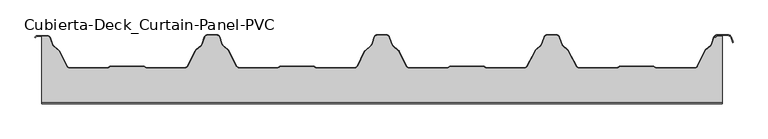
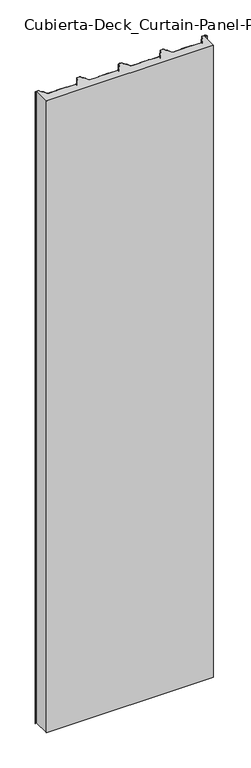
"""IFC4 building model written with IfcOpenShell, lengths in millimetres: plate geometry, Cubierta-Deck_Curtain-Panel-PVC : ACH_Cubierta-Deck_MW_50 mm."""

from ifc_helpers import new_model, si_unit, point, frame_2d, origin, origin_with_axes, place, context, project, spatial, polyline, circle_curve, trimmed, segment, composite_curve, outline, extrude, source, transform, mapped, element, save


def cubierta_deck_curtain_panel_pvc_440a0394(model_context):
    return source(origin(), model_context, "Body", "SweptSolid", [
        extrude(outline(composite_curve([segment(polyline([(-349.0135941, -47.2718753), (-348.3934384, -47.892031)]), True, "CONTINUOUS"), segment(trimmed(circle_curve(frame_2d((-346.2014073, -45.7)), 3.1), [point((-348.3934384, -47.892031))], [point((-346.2014073, -48.8))], True, "CARTESIAN"), True, "CONTINUOUS"), segment(polyline([(-346.2014073, -48.8), (-289.4061861, -48.8)]), True, "CONTINUOUS"), segment(trimmed(circle_curve(frame_2d((-289.4061861, -44.5)), 4.3), [point((-289.4061861, -48.8))], [point((-285.5884085, -46.4785284))], True, "CARTESIAN"), True, "CONTINUOUS"), segment(polyline([(-285.5884085, -46.4785284), (-273.6825876, -23.505001)]), True, "CONTINUOUS"), segment(trimmed(circle_curve(frame_2d((-271.1078074, -24.8393573)), 2.9), [point((-273.6825876, -23.505001))], [point((-273.017236, -22.6566795))], False, "CARTESIAN"), True, "CONTINUOUS"), segment(polyline([(-273.017236, -22.6566795), (-265.2497907, -15.8616403)]), True, "CONTINUOUS"), segment(trimmed(circle_curve(frame_2d((-267.290904, -13.5284329)), 3.1), [point((-265.2497907, -15.8616403))], [point((-264.3739053, -14.5777749))], True, "CARTESIAN"), True, "CONTINUOUS"), segment(polyline([(-264.3739053, -14.5777749), (-260.2266586, -3.0491088)]), True, "CONTINUOUS"), segment(trimmed(circle_curve(frame_2d((-257.0273697, -4.2)), 3.4), [point((-260.2266586, -3.0491088))], [point((-257.0273697, -0.8))], False, "CARTESIAN"), True, "CONTINUOUS"), segment(polyline([(-257.0273697, -0.8), (-242.6920972, -0.8)]), True, "CONTINUOUS"), segment(trimmed(circle_curve(frame_2d((-242.6920972, -4.2)), 3.4), [point((-242.6920972, -0.8))], [point((-239.4928083, -3.0491088))], False, "CARTESIAN"), True, "CONTINUOUS"), segment(polyline([(-239.4928083, -3.0491088), (-235.3455616, -14.5777749)]), True, "CONTINUOUS"), segment(trimmed(circle_curve(frame_2d((-232.4285629, -13.5284329)), 3.1), [point((-235.3455616, -14.5777749))], [point((-234.4696761, -15.8616403))], True, "CARTESIAN"), True, "CONTINUOUS"), segment(polyline([(-234.4696761, -15.8616403), (-226.7022309, -22.6566795)]), True, "CONTINUOUS"), segment(trimmed(circle_curve(frame_2d((-228.6116595, -24.8393573)), 2.9), [point((-226.7022309, -22.6566795))], [point((-226.0368792, -23.505001))], False, "CARTESIAN"), True, "CONTINUOUS"), segment(polyline([(-226.0368792, -23.505001), (-214.1310583, -46.4785284)]), True, "CONTINUOUS"), segment(trimmed(circle_curve(frame_2d((-210.3132808, -44.5)), 4.3), [point((-214.1310583, -46.4785284))], [point((-210.3132808, -48.8))], True, "CARTESIAN"), True, "CONTINUOUS"), segment(polyline([(-210.3132808, -48.8), (-153.5333867, -48.8)]), True, "CONTINUOUS"), segment(trimmed(circle_curve(frame_2d((-153.5333867, -45.7)), 3.1), [point((-153.5333867, -48.8))], [point((-151.3413557, -47.892031))], True, "CARTESIAN"), True, "CONTINUOUS"), segment(polyline([(-151.3413557, -47.892031), (-150.7212, -47.2718753)]), True, "CONTINUOUS"), segment(trimmed(circle_curve(frame_2d((-149.0481053, -50.0020238)), 3.2020238), [point((-150.7212, -47.2718753))], [point((-149.0481053, -46.8))], False, "CARTESIAN"), True, "CONTINUOUS"), segment(polyline([(-149.0481053, -46.8), (-101.2020159, -46.8)]), True, "CONTINUOUS"), segment(trimmed(circle_curve(frame_2d((-101.2020159, -50.0020238)), 3.2020238), [point((-101.2020159, -46.8))], [point((-99.5289212, -47.2718753))], False, "CARTESIAN"), True, "CONTINUOUS"), segment(polyline([(-99.5289212, -47.2718753), (-98.9087655, -47.892031)]), True, "CONTINUOUS"), segment(trimmed(circle_curve(frame_2d((-96.7167345, -45.7)), 3.1), [point((-98.9087655, -47.892031))], [point((-96.7167345, -48.8))], True, "CARTESIAN"), True, "CONTINUOUS"), segment(polyline([(-96.7167345, -48.8), (-39.9215133, -48.8)]), True, "CONTINUOUS"), segment(trimmed(circle_curve(frame_2d((-39.9215133, -44.5)), 4.3), [point((-39.9215133, -48.8))], [point((-36.0707148, -46.4134657))], True, "CARTESIAN"), True, "CONTINUOUS"), segment(polyline([(-36.0707148, -46.4134657), (-25.2060392, -24.5485969)]), True, "CONTINUOUS"), segment(trimmed(circle_curve(frame_2d((-22.6089891, -25.8390738)), 2.9), [point((-25.2060392, -24.5485969))], [point((-24.5354625, -23.6714252))], False, "CARTESIAN"), True, "CONTINUOUS"), segment(polyline([(-24.5354625, -23.6714252), (-15.7323582, -15.8477646)]), True, "CONTINUOUS"), segment(trimmed(circle_curve(frame_2d((-17.7916919, -13.530623)), 3.1), [point((-15.7323582, -15.8477646))], [point((-14.8746932, -14.579965))], True, "CARTESIAN"), True, "CONTINUOUS"), segment(polyline([(-14.8746932, -14.579965), (-10.7266586, -3.0491088)]), True, "CONTINUOUS"), segment(trimmed(circle_curve(frame_2d((-7.5273697, -4.2)), 3.4), [point((-10.7266586, -3.0491088))], [point((-7.5273697, -0.8))], False, "CARTESIAN"), True, "CONTINUOUS"), segment(polyline([(-7.5273697, -0.8), (6.8079028, -0.8)]), True, "CONTINUOUS"), segment(trimmed(circle_curve(frame_2d((6.8079028, -4.2)), 3.4), [point((6.8079028, -0.8))], [point((10.0071917, -3.0491088))], False, "CARTESIAN"), True, "CONTINUOUS"), segment(polyline([(10.0071917, -3.0491088), (14.1552263, -14.579965)]), True, "CONTINUOUS"), segment(trimmed(circle_curve(frame_2d((17.072225, -13.530623)), 3.1), [point((14.1552263, -14.579965))], [point((15.0128913, -15.8477646))], True, "CARTESIAN"), True, "CONTINUOUS"), segment(polyline([(15.0128913, -15.8477646), (23.8159956, -23.6714252)]), True, "CONTINUOUS"), segment(trimmed(circle_curve(frame_2d((21.8895222, -25.8390738)), 2.9), [point((23.8159956, -23.6714252))], [point((24.4865724, -24.5485969))], False, "CARTESIAN"), True, "CONTINUOUS"), segment(polyline([(24.4865724, -24.5485969), (35.3512479, -46.4134657)]), True, "CONTINUOUS"), segment(trimmed(circle_curve(frame_2d((39.2020464, -44.5)), 4.3), [point((35.3512479, -46.4134657))], [point((39.2020464, -48.8))], True, "CARTESIAN"), True, "CONTINUOUS"), segment(polyline([(39.2020464, -48.8), (95.9819404, -48.8)]), True, "CONTINUOUS"), segment(trimmed(circle_curve(frame_2d((95.9819404, -45.7)), 3.1), [point((95.9819404, -48.8))], [point((98.1739715, -47.892031))], True, "CARTESIAN"), True, "CONTINUOUS"), segment(polyline([(98.1739715, -47.892031), (98.7941272, -47.2718753)]), True, "CONTINUOUS"), segment(trimmed(circle_curve(frame_2d((100.4672218, -50.0020238)), 3.2020238), [point((98.7941272, -47.2718753))], [point((100.4672218, -46.8))], False, "CARTESIAN"), True, "CONTINUOUS"), segment(polyline([(100.4672218, -46.8), (148.3133113, -46.8)]), True, "CONTINUOUS"), segment(trimmed(circle_curve(frame_2d((148.3133113, -50.0020238)), 3.2020238), [point((148.3133113, -46.8))], [point((149.9864059, -47.2718753))], False, "CARTESIAN"), True, "CONTINUOUS"), segment(polyline([(149.9864059, -47.2718753), (150.6065616, -47.892031)]), True, "CONTINUOUS"), segment(trimmed(circle_curve(frame_2d((152.7985927, -45.7)), 3.1), [point((150.6065616, -47.892031))], [point((152.7985927, -48.8))], True, "CARTESIAN"), True, "CONTINUOUS"), segment(polyline([(152.7985927, -48.8), (209.5938139, -48.8)]), True, "CONTINUOUS"), segment(trimmed(circle_curve(frame_2d((209.5938139, -44.5)), 4.3), [point((209.5938139, -48.8))], [point((213.4115915, -46.4785284))], True, "CARTESIAN"), True, "CONTINUOUS"), segment(polyline([(213.4115915, -46.4785284), (225.3174124, -23.505001)]), True, "CONTINUOUS"), segment(trimmed(circle_curve(frame_2d((227.8921926, -24.8393573)), 2.9), [point((225.3174124, -23.505001))], [point((225.982764, -22.6566795))], False, "CARTESIAN"), True, "CONTINUOUS"), segment(polyline([(225.982764, -22.6566795), (233.7502093, -15.8616403)]), True, "CONTINUOUS"), segment(trimmed(circle_curve(frame_2d((231.709096, -13.5284329)), 3.1), [point((233.7502093, -15.8616403))], [point((234.6260947, -14.5777749))], True, "CARTESIAN"), True, "CONTINUOUS"), segment(polyline([(234.6260947, -14.5777749), (238.7733414, -3.0491088)]), True, "CONTINUOUS"), segment(trimmed(circle_curve(frame_2d((241.9726303, -4.2)), 3.4), [point((238.7733414, -3.0491088))], [point((241.9726303, -0.8))], False, "CARTESIAN"), True, "CONTINUOUS"), segment(polyline([(241.9726303, -0.8), (256.3079028, -0.8)]), True, "CONTINUOUS"), segment(trimmed(circle_curve(frame_2d((256.3079028, -4.2)), 3.4), [point((256.3079028, -0.8))], [point((259.5071917, -3.0491088))], False, "CARTESIAN"), True, "CONTINUOUS"), segment(polyline([(259.5071917, -3.0491088), (263.6544384, -14.5777749)]), True, "CONTINUOUS"), segment(trimmed(circle_curve(frame_2d((266.5714371, -13.5284329)), 3.1), [point((263.6544384, -14.5777749))], [point((264.5303239, -15.8616403))], True, "CARTESIAN"), True, "CONTINUOUS"), segment(polyline([(264.5303239, -15.8616403), (272.2977691, -22.6566795)]), True, "CONTINUOUS"), segment(trimmed(circle_curve(frame_2d((270.3883405, -24.8393573)), 2.9), [point((272.2977691, -22.6566795))], [point((272.9631208, -23.505001))], False, "CARTESIAN"), True, "CONTINUOUS"), segment(polyline([(272.9631208, -23.505001), (284.8689417, -46.4785284)]), True, "CONTINUOUS"), segment(trimmed(circle_curve(frame_2d((288.6867192, -44.5)), 4.3), [point((284.8689417, -46.4785284))], [point((288.6867192, -48.8))], True, "CARTESIAN"), True, "CONTINUOUS"), segment(polyline([(288.6867192, -48.8), (345.4666133, -48.8)]), True, "CONTINUOUS"), segment(trimmed(circle_curve(frame_2d((345.4666133, -45.7)), 3.1), [point((345.4666133, -48.8))], [point((347.6586443, -47.892031))], True, "CARTESIAN"), True, "CONTINUOUS"), segment(polyline([(347.6586443, -47.892031), (348.2788, -47.2718753)]), True, "CONTINUOUS"), segment(trimmed(circle_curve(frame_2d((349.9518947, -50.0020238)), 3.2020238), [point((348.2788, -47.2718753))], [point((349.9518947, -46.8))], False, "CARTESIAN"), True, "CONTINUOUS"), segment(polyline([(349.9518947, -46.8), (397.7979841, -46.8)]), True, "CONTINUOUS"), segment(trimmed(circle_curve(frame_2d((397.7979841, -50.0020238)), 3.2020238), [point((397.7979841, -46.8))], [point((399.4710788, -47.2718753))], False, "CARTESIAN"), True, "CONTINUOUS"), segment(polyline([(399.4710788, -47.2718753), (400.0912345, -47.892031)]), True, "CONTINUOUS"), segment(trimmed(circle_curve(frame_2d((402.2832655, -45.7)), 3.1), [point((400.0912345, -47.892031))], [point((402.2832655, -48.8))], True, "CARTESIAN"), True, "CONTINUOUS"), segment(polyline([(402.2832655, -48.8), (460.084234, -48.8)]), True, "CONTINUOUS"), segment(trimmed(circle_curve(frame_2d((460.084234, -44.5)), 4.3), [point((460.084234, -48.8))], [point((463.9685573, -46.3444599))], True, "CARTESIAN"), True, "CONTINUOUS"), segment(polyline([(463.9685573, -46.3444599), (474.7696963, -23.5979005)]), True, "CONTINUOUS"), segment(trimmed(circle_curve(frame_2d((477.3893563, -24.8418385)), 2.9), [point((474.7696963, -23.5979005))], [point((475.4799277, -22.6591607))], False, "CARTESIAN"), True, "CONTINUOUS"), segment(polyline([(475.4799277, -22.6591607), (483.2502093, -15.8616403)]), True, "CONTINUOUS"), segment(trimmed(circle_curve(frame_2d((481.209096, -13.5284329)), 3.1), [point((483.2502093, -15.8616403))], [point((484.1260947, -14.5777749))], True, "CARTESIAN"), True, "CONTINUOUS"), segment(polyline([(484.1260947, -14.5777749), (488.2177168, -3.2037362), (490.5677139, -4.0491088)]), True, "CONTINUOUS"), segment(trimmed(circle_curve(frame_2d((493.7670027, -5.2)), 3.4), [point((490.5677139, -4.0491088))], [point((493.7670027, -1.8))], False, "CARTESIAN"), True, "CONTINUOUS"), segment(polyline([(493.7670027, -1.8), (500.0, -1.8), (500.0, -98.8), (-500.0, -98.8), (-500.0, -1.8), (-491.8323638, -1.8)]), True, "CONTINUOUS"), segment(trimmed(circle_curve(frame_2d((-491.8323638, -5.2)), 3.4), [point((-491.8323638, -1.8))], [point((-488.6330749, -4.0491088))], False, "CARTESIAN"), True, "CONTINUOUS"), segment(polyline([(-488.6330749, -4.0491088), (-484.8455616, -14.5777749)]), True, "CONTINUOUS"), segment(trimmed(circle_curve(frame_2d((-481.9285629, -13.5284329)), 3.1), [point((-484.8455616, -14.5777749))], [point((-483.9696761, -15.8616403))], True, "CARTESIAN"), True, "CONTINUOUS"), segment(polyline([(-483.9696761, -15.8616403), (-475.3099327, -23.4372709)]), True, "CONTINUOUS"), segment(trimmed(circle_curve(frame_2d((-477.2193612, -25.6199488)), 2.9), [point((-475.3099327, -23.4372709))], [point((-474.6223111, -24.3294719))], False, "CARTESIAN"), True, "CONTINUOUS"), segment(polyline([(-474.6223111, -24.3294719), (-463.6487521, -46.4134657)]), True, "CONTINUOUS"), segment(trimmed(circle_curve(frame_2d((-459.7979536, -44.5)), 4.3), [point((-463.6487521, -46.4134657))], [point((-459.7979536, -48.8))], True, "CARTESIAN"), True, "CONTINUOUS"), segment(polyline([(-459.7979536, -48.8), (-403.0180596, -48.8)]), True, "CONTINUOUS"), segment(trimmed(circle_curve(frame_2d((-403.0180596, -45.7)), 3.1), [point((-403.0180596, -48.8))], [point((-400.8260285, -47.892031))], True, "CARTESIAN"), True, "CONTINUOUS"), segment(polyline([(-400.8260285, -47.892031), (-400.2058728, -47.2718753)]), True, "CONTINUOUS"), segment(trimmed(circle_curve(frame_2d((-398.5327782, -50.0020238)), 3.2020238), [point((-400.2058728, -47.2718753))], [point((-398.5327782, -46.8))], False, "CARTESIAN"), True, "CONTINUOUS"), segment(polyline([(-398.5327782, -46.8), (-350.6866887, -46.8)]), True, "CONTINUOUS"), segment(trimmed(circle_curve(frame_2d((-350.6866887, -50.0020238)), 3.2020238), [point((-350.6866887, -46.8))], [point((-349.0135941, -47.2718753))], False, "CARTESIAN"), True, "CONTINUOUS")], self_intersect=False)), origin_with_axes(), (0.0, 0.0, 1.0), 4000.0),
        extrude(outline(composite_curve([segment(polyline([(-506.1676362, -1.0), (-491.8323638, -1.0)]), True, "CONTINUOUS"), segment(trimmed(circle_curve(frame_2d((-491.8323638, -5.2)), 4.2), [point((-491.8323638, -1.0))], [point((-487.880301, -3.7783109))], False, "CARTESIAN"), True, "CONTINUOUS"), segment(polyline([(-487.880301, -3.7783109), (-484.0927877, -14.3069769)]), True, "CONTINUOUS"), segment(trimmed(circle_curve(frame_2d((-481.9285629, -13.5284329)), 2.3), [point((-484.0927877, -14.3069769))], [point((-483.4429372, -15.2595222))], True, "CARTESIAN"), True, "CONTINUOUS"), segment(polyline([(-483.4429372, -15.2595222), (-474.7831938, -22.8351529)]), True, "CONTINUOUS"), segment(trimmed(circle_curve(frame_2d((-477.2193612, -25.6199488)), 3.7), [point((-474.7831938, -22.8351529))], [point((-473.9058834, -23.9734783))], False, "CARTESIAN"), True, "CONTINUOUS"), segment(polyline([(-473.9058834, -23.9734783), (-462.9323245, -46.0574721)]), True, "CONTINUOUS"), segment(trimmed(circle_curve(frame_2d((-459.7979536, -44.5)), 3.5), [point((-462.9323245, -46.0574721))], [point((-459.7979536, -48.0))], True, "CARTESIAN"), True, "CONTINUOUS"), segment(polyline([(-459.7979536, -48.0), (-403.0180596, -48.0)]), True, "CONTINUOUS"), segment(trimmed(circle_curve(frame_2d((-403.0180596, -45.7)), 2.3), [point((-403.0180596, -48.0))], [point((-401.391714, -47.3263456))], True, "CARTESIAN"), True, "CONTINUOUS"), segment(polyline([(-401.391714, -47.3263456), (-400.7083848, -46.6430165)]), True, "CONTINUOUS"), segment(trimmed(circle_curve(frame_2d((-398.5327782, -50.0020238)), 4.0020238), [point((-400.7083848, -46.6430165))], [point((-398.5327782, -46.0))], False, "CARTESIAN"), True, "CONTINUOUS"), segment(polyline([(-398.5327782, -46.0), (-350.6866887, -46.0)]), True, "CONTINUOUS"), segment(trimmed(circle_curve(frame_2d((-350.6866887, -50.0020238)), 4.0020238), [point((-350.6866887, -46.0))], [point((-348.511082, -46.6430165))], False, "CARTESIAN"), True, "CONTINUOUS"), segment(polyline([(-348.511082, -46.6430165), (-347.8277529, -47.3263456)]), True, "CONTINUOUS"), segment(trimmed(circle_curve(frame_2d((-346.2014073, -45.7)), 2.3), [point((-347.8277529, -47.3263456))], [point((-346.2014073, -48.0))], True, "CARTESIAN"), True, "CONTINUOUS"), segment(polyline([(-346.2014073, -48.0), (-289.4061861, -48.0)]), True, "CONTINUOUS"), segment(trimmed(circle_curve(frame_2d((-289.4061861, -44.5)), 3.5), [point((-289.4061861, -48.0))], [point((-286.2986927, -46.1104301))], True, "CARTESIAN"), True, "CONTINUOUS"), segment(polyline([(-286.2986927, -46.1104301), (-274.3928718, -23.1369027)]), True, "CONTINUOUS"), segment(trimmed(circle_curve(frame_2d((-271.1078074, -24.8393573)), 3.7), [point((-274.3928718, -23.1369027))], [point((-273.5439749, -22.0545614))], False, "CARTESIAN"), True, "CONTINUOUS"), segment(polyline([(-273.5439749, -22.0545614), (-265.7765297, -15.2595222)]), True, "CONTINUOUS"), segment(trimmed(circle_curve(frame_2d((-267.290904, -13.5284329)), 2.3), [point((-265.7765297, -15.2595222))], [point((-265.1266792, -14.3069769))], True, "CARTESIAN"), True, "CONTINUOUS"), segment(polyline([(-265.1266792, -14.3069769), (-260.9794324, -2.7783109)]), True, "CONTINUOUS"), segment(trimmed(circle_curve(frame_2d((-257.0273697, -4.2)), 4.2), [point((-260.9794324, -2.7783109))], [point((-257.0273697, 0.0))], False, "CARTESIAN"), True, "CONTINUOUS"), segment(polyline([(-257.0273697, 0.0), (-242.6920972, 0.0)]), True, "CONTINUOUS"), segment(trimmed(circle_curve(frame_2d((-242.6920972, -4.2)), 4.2), [point((-242.6920972, 0.0))], [point((-238.7400345, -2.7783109))], False, "CARTESIAN"), True, "CONTINUOUS"), segment(polyline([(-238.7400345, -2.7783109), (-234.5927877, -14.3069769)]), True, "CONTINUOUS"), segment(trimmed(circle_curve(frame_2d((-232.4285629, -13.5284329)), 2.3), [point((-234.5927877, -14.3069769))], [point((-233.9429372, -15.2595222))], True, "CARTESIAN"), True, "CONTINUOUS"), segment(polyline([(-233.9429372, -15.2595222), (-226.175492, -22.0545614)]), True, "CONTINUOUS"), segment(trimmed(circle_curve(frame_2d((-228.6116595, -24.8393573)), 3.7), [point((-226.175492, -22.0545614))], [point((-225.326595, -23.1369027))], False, "CARTESIAN"), True, "CONTINUOUS"), segment(polyline([(-225.326595, -23.1369027), (-213.4207742, -46.1104301)]), True, "CONTINUOUS"), segment(trimmed(circle_curve(frame_2d((-210.3132808, -44.5)), 3.5), [point((-213.4207742, -46.1104301))], [point((-210.3132808, -48.0))], True, "CARTESIAN"), True, "CONTINUOUS"), segment(polyline([(-210.3132808, -48.0), (-153.5333867, -48.0)]), True, "CONTINUOUS"), segment(trimmed(circle_curve(frame_2d((-153.5333867, -45.7)), 2.3), [point((-153.5333867, -48.0))], [point((-151.9070411, -47.3263456))], True, "CARTESIAN"), True, "CONTINUOUS"), segment(polyline([(-151.9070411, -47.3263456), (-151.223712, -46.6430165)]), True, "CONTINUOUS"), segment(trimmed(circle_curve(frame_2d((-149.0481053, -50.0020238)), 4.0020238), [point((-151.223712, -46.6430165))], [point((-149.0481053, -46.0))], False, "CARTESIAN"), True, "CONTINUOUS"), segment(polyline([(-149.0481053, -46.0), (-101.2020159, -46.0)]), True, "CONTINUOUS"), segment(trimmed(circle_curve(frame_2d((-101.2020159, -50.0020238)), 4.0020238), [point((-101.2020159, -46.0))], [point((-99.0264092, -46.6430165))], False, "CARTESIAN"), True, "CONTINUOUS"), segment(polyline([(-99.0264092, -46.6430165), (-98.3430801, -47.3263456)]), True, "CONTINUOUS"), segment(trimmed(circle_curve(frame_2d((-96.7167345, -45.7)), 2.3), [point((-98.3430801, -47.3263456))], [point((-96.7167345, -48.0))], True, "CARTESIAN"), True, "CONTINUOUS"), segment(polyline([(-96.7167345, -48.0), (-39.9215133, -48.0)]), True, "CONTINUOUS"), segment(trimmed(circle_curve(frame_2d((-39.9215133, -44.5)), 3.5), [point((-39.9215133, -48.0))], [point((-36.7871424, -46.0574721))], True, "CARTESIAN"), True, "CONTINUOUS"), segment(polyline([(-36.7871424, -46.0574721), (-25.9224669, -24.1926033)]), True, "CONTINUOUS"), segment(trimmed(circle_curve(frame_2d((-22.6089891, -25.8390738)), 3.7), [point((-25.9224669, -24.1926033))], [point((-25.0669035, -23.0734532))], False, "CARTESIAN"), True, "CONTINUOUS"), segment(polyline([(-25.0669035, -23.0734532), (-16.2637992, -15.2497926)]), True, "CONTINUOUS"), segment(trimmed(circle_curve(frame_2d((-17.7916919, -13.530623)), 2.3), [point((-16.2637992, -15.2497926))], [point((-15.627467, -14.3091671))], True, "CARTESIAN"), True, "CONTINUOUS"), segment(polyline([(-15.627467, -14.3091671), (-11.4794324, -2.7783109)]), True, "CONTINUOUS"), segment(trimmed(circle_curve(frame_2d((-7.5273697, -4.2)), 4.2), [point((-11.4794324, -2.7783109))], [point((-7.5273697, 0.0))], False, "CARTESIAN"), True, "CONTINUOUS"), segment(polyline([(-7.5273697, 0.0), (6.8079028, 0.0)]), True, "CONTINUOUS"), segment(trimmed(circle_curve(frame_2d((6.8079028, -4.2)), 4.2), [point((6.8079028, 0.0))], [point((10.7599655, -2.7783109))], False, "CARTESIAN"), True, "CONTINUOUS"), segment(polyline([(10.7599655, -2.7783109), (14.9080002, -14.3091671)]), True, "CONTINUOUS"), segment(trimmed(circle_curve(frame_2d((17.072225, -13.530623)), 2.3), [point((14.9080002, -14.3091671))], [point((15.5443323, -15.2497926))], True, "CARTESIAN"), True, "CONTINUOUS"), segment(polyline([(15.5443323, -15.2497926), (24.3474366, -23.0734532)]), True, "CONTINUOUS"), segment(trimmed(circle_curve(frame_2d((21.8895222, -25.8390738)), 3.7), [point((24.3474366, -23.0734532))], [point((25.203, -24.1926033))], False, "CARTESIAN"), True, "CONTINUOUS"), segment(polyline([(25.203, -24.1926033), (36.0676755, -46.0574721)]), True, "CONTINUOUS"), segment(trimmed(circle_curve(frame_2d((39.2020464, -44.5)), 3.5), [point((36.0676755, -46.0574721))], [point((39.2020464, -48.0))], True, "CARTESIAN"), True, "CONTINUOUS"), segment(polyline([(39.2020464, -48.0), (95.9819404, -48.0)]), True, "CONTINUOUS"), segment(trimmed(circle_curve(frame_2d((95.9819404, -45.7)), 2.3), [point((95.9819404, -48.0))], [point((97.608286, -47.3263456))], True, "CARTESIAN"), True, "CONTINUOUS"), segment(polyline([(97.608286, -47.3263456), (98.2916152, -46.6430165)]), True, "CONTINUOUS"), segment(trimmed(circle_curve(frame_2d((100.4672218, -50.0020238)), 4.0020238), [point((98.2916152, -46.6430165))], [point((100.4672218, -46.0))], False, "CARTESIAN"), True, "CONTINUOUS"), segment(polyline([(100.4672218, -46.0), (148.3133113, -46.0)]), True, "CONTINUOUS"), segment(trimmed(circle_curve(frame_2d((148.3133113, -50.0020238)), 4.0020238), [point((148.3133113, -46.0))], [point((150.488918, -46.6430165))], False, "CARTESIAN"), True, "CONTINUOUS"), segment(polyline([(150.488918, -46.6430165), (151.1722471, -47.3263456)]), True, "CONTINUOUS"), segment(trimmed(circle_curve(frame_2d((152.7985927, -45.7)), 2.3), [point((151.1722471, -47.3263456))], [point((152.7985927, -48.0))], True, "CARTESIAN"), True, "CONTINUOUS"), segment(polyline([(152.7985927, -48.0), (209.5938139, -48.0)]), True, "CONTINUOUS"), segment(trimmed(circle_curve(frame_2d((209.5938139, -44.5)), 3.5), [point((209.5938139, -48.0))], [point((212.7013073, -46.1104301))], True, "CARTESIAN"), True, "CONTINUOUS"), segment(polyline([(212.7013073, -46.1104301), (224.6071282, -23.1369027)]), True, "CONTINUOUS"), segment(trimmed(circle_curve(frame_2d((227.8921926, -24.8393573)), 3.7), [point((224.6071282, -23.1369027))], [point((225.4560251, -22.0545614))], False, "CARTESIAN"), True, "CONTINUOUS"), segment(polyline([(225.4560251, -22.0545614), (233.2234703, -15.2595222)]), True, "CONTINUOUS"), segment(trimmed(circle_curve(frame_2d((231.709096, -13.5284329)), 2.3), [point((233.2234703, -15.2595222))], [point((233.8733208, -14.3069769))], True, "CARTESIAN"), True, "CONTINUOUS"), segment(polyline([(233.8733208, -14.3069769), (238.0205676, -2.7783109)]), True, "CONTINUOUS"), segment(trimmed(circle_curve(frame_2d((241.9726303, -4.2)), 4.2), [point((238.0205676, -2.7783109))], [point((241.9726303, 0.0))], False, "CARTESIAN"), True, "CONTINUOUS"), segment(polyline([(241.9726303, 0.0), (256.3079028, 0.0)]), True, "CONTINUOUS"), segment(trimmed(circle_curve(frame_2d((256.3079028, -4.2)), 4.2), [point((256.3079028, 0.0))], [point((260.2599655, -2.7783109))], False, "CARTESIAN"), True, "CONTINUOUS"), segment(polyline([(260.2599655, -2.7783109), (264.4072123, -14.3069769)]), True, "CONTINUOUS"), segment(trimmed(circle_curve(frame_2d((266.5714371, -13.5284329)), 2.3), [point((264.4072123, -14.3069769))], [point((265.0570628, -15.2595222))], True, "CARTESIAN"), True, "CONTINUOUS"), segment(polyline([(265.0570628, -15.2595222), (272.824508, -22.0545614)]), True, "CONTINUOUS"), segment(trimmed(circle_curve(frame_2d((270.3883405, -24.8393573)), 3.7), [point((272.824508, -22.0545614))], [point((273.673405, -23.1369027))], False, "CARTESIAN"), True, "CONTINUOUS"), segment(polyline([(273.673405, -23.1369027), (285.5792258, -46.1104301)]), True, "CONTINUOUS"), segment(trimmed(circle_curve(frame_2d((288.6867192, -44.5)), 3.5), [point((285.5792258, -46.1104301))], [point((288.6867192, -48.0))], True, "CARTESIAN"), True, "CONTINUOUS"), segment(polyline([(288.6867192, -48.0), (345.4666133, -48.0)]), True, "CONTINUOUS"), segment(trimmed(circle_curve(frame_2d((345.4666133, -45.7)), 2.3), [point((345.4666133, -48.0))], [point((347.0929589, -47.3263456))], True, "CARTESIAN"), True, "CONTINUOUS"), segment(polyline([(347.0929589, -47.3263456), (347.776288, -46.6430165)]), True, "CONTINUOUS"), segment(trimmed(circle_curve(frame_2d((349.9518947, -50.0020238)), 4.0020238), [point((347.776288, -46.6430165))], [point((349.9518947, -46.0))], False, "CARTESIAN"), True, "CONTINUOUS"), segment(polyline([(349.9518947, -46.0), (397.7979841, -46.0)]), True, "CONTINUOUS"), segment(trimmed(circle_curve(frame_2d((397.7979841, -50.0020238)), 4.0020238), [point((397.7979841, -46.0))], [point((399.9735908, -46.6430165))], False, "CARTESIAN"), True, "CONTINUOUS"), segment(polyline([(399.9735908, -46.6430165), (400.6569199, -47.3263456)]), True, "CONTINUOUS"), segment(trimmed(circle_curve(frame_2d((402.2832655, -45.7)), 2.3), [point((400.6569199, -47.3263456))], [point((402.2832655, -48.0))], True, "CARTESIAN"), True, "CONTINUOUS"), segment(polyline([(402.2832655, -48.0), (460.084234, -48.0)]), True, "CONTINUOUS"), segment(trimmed(circle_curve(frame_2d((460.084234, -44.5)), 3.5), [point((460.084234, -48.0))], [point((463.2458925, -46.0013046))], True, "CARTESIAN"), True, "CONTINUOUS"), segment(polyline([(463.2458925, -46.0013046), (474.0470315, -23.2547451)]), True, "CONTINUOUS"), segment(trimmed(circle_curve(frame_2d((477.3893563, -24.8418385)), 3.7), [point((474.0470315, -23.2547451))], [point((474.9531888, -22.0570426))], False, "CARTESIAN"), True, "CONTINUOUS"), segment(polyline([(474.9531888, -22.0570426), (482.7234703, -15.2595222)]), True, "CONTINUOUS"), segment(trimmed(circle_curve(frame_2d((481.209096, -13.5284329)), 2.3), [point((482.7234703, -15.2595222))], [point((483.3733208, -14.3069769))], True, "CARTESIAN"), True, "CONTINUOUS"), segment(polyline([(483.3733208, -14.3069769), (487.5205676, -2.7783109)]), True, "CONTINUOUS"), segment(trimmed(circle_curve(frame_2d((491.4726303, -4.2)), 4.2), [point((487.5205676, -2.7783109))], [point((491.4726303, 0.0))], False, "CARTESIAN"), True, "CONTINUOUS"), segment(polyline([(491.4726303, 0.0), (508.6580917, 0.0)]), True, "CONTINUOUS"), segment(trimmed(circle_curve(frame_2d((508.6580917, -4.2)), 4.2), [point((508.6580917, 0.0))], [point((512.6101545, -2.7783109))], False, "CARTESIAN"), True, "CONTINUOUS"), segment(polyline([(512.6101545, -2.7783109), (515.5925551, -11.0688956), (514.8397812, -11.3396935), (511.8573806, -3.0491088)]), True, "CONTINUOUS"), segment(trimmed(circle_curve(frame_2d((508.6580917, -4.2)), 3.4), [point((511.8573806, -3.0491088))], [point((508.6580917, -0.8))], True, "CARTESIAN"), True, "CONTINUOUS"), segment(polyline([(508.6580917, -0.8), (491.4726303, -0.8)]), True, "CONTINUOUS"), segment(trimmed(circle_curve(frame_2d((491.4726303, -4.2)), 3.4), [point((491.4726303, -0.8))], [point((488.2733414, -3.0491088))], True, "CARTESIAN"), True, "CONTINUOUS"), segment(polyline([(488.2733414, -3.0491088), (484.1260947, -14.5777749)]), True, "CONTINUOUS"), segment(trimmed(circle_curve(frame_2d((481.209096, -13.5284329)), 3.1), [point((484.1260947, -14.5777749))], [point((483.2502093, -15.8616403))], False, "CARTESIAN"), True, "CONTINUOUS"), segment(polyline([(483.2502093, -15.8616403), (475.4799277, -22.6591607)]), True, "CONTINUOUS"), segment(trimmed(circle_curve(frame_2d((477.3893563, -24.8418385)), 2.9), [point((475.4799277, -22.6591607))], [point((474.7696963, -23.5979005))], True, "CARTESIAN"), True, "CONTINUOUS"), segment(polyline([(474.7696963, -23.5979005), (463.9685573, -46.3444599)]), True, "CONTINUOUS"), segment(trimmed(circle_curve(frame_2d((460.084234, -44.5)), 4.3), [point((463.9685573, -46.3444599))], [point((460.084234, -48.8))], False, "CARTESIAN"), True, "CONTINUOUS"), segment(polyline([(460.084234, -48.8), (402.2832655, -48.8)]), True, "CONTINUOUS"), segment(trimmed(circle_curve(frame_2d((402.2832655, -45.7)), 3.1), [point((402.2832655, -48.8))], [point((400.0912345, -47.892031))], False, "CARTESIAN"), True, "CONTINUOUS"), segment(polyline([(400.0912345, -47.892031), (399.4710788, -47.2718753)]), True, "CONTINUOUS"), segment(trimmed(circle_curve(frame_2d((397.7979841, -50.0020238)), 3.2020238), [point((399.4710788, -47.2718753))], [point((397.7979841, -46.8))], True, "CARTESIAN"), True, "CONTINUOUS"), segment(polyline([(397.7979841, -46.8), (349.9518947, -46.8)]), True, "CONTINUOUS"), segment(trimmed(circle_curve(frame_2d((349.9518947, -50.0020238)), 3.2020238), [point((349.9518947, -46.8))], [point((348.2788, -47.2718753))], True, "CARTESIAN"), True, "CONTINUOUS"), segment(polyline([(348.2788, -47.2718753), (347.6586443, -47.892031)]), True, "CONTINUOUS"), segment(trimmed(circle_curve(frame_2d((345.4666133, -45.7)), 3.1), [point((347.6586443, -47.892031))], [point((345.4666133, -48.8))], False, "CARTESIAN"), True, "CONTINUOUS"), segment(polyline([(345.4666133, -48.8), (288.6867192, -48.8)]), True, "CONTINUOUS"), segment(trimmed(circle_curve(frame_2d((288.6867192, -44.5)), 4.3), [point((288.6867192, -48.8))], [point((284.8689417, -46.4785284))], False, "CARTESIAN"), True, "CONTINUOUS"), segment(polyline([(284.8689417, -46.4785284), (272.9631208, -23.505001)]), True, "CONTINUOUS"), segment(trimmed(circle_curve(frame_2d((270.3883405, -24.8393573)), 2.9), [point((272.9631208, -23.505001))], [point((272.2977691, -22.6566795))], True, "CARTESIAN"), True, "CONTINUOUS"), segment(polyline([(272.2977691, -22.6566795), (264.5303239, -15.8616403)]), True, "CONTINUOUS"), segment(trimmed(circle_curve(frame_2d((266.5714371, -13.5284329)), 3.1), [point((264.5303239, -15.8616403))], [point((263.6544384, -14.5777749))], False, "CARTESIAN"), True, "CONTINUOUS"), segment(polyline([(263.6544384, -14.5777749), (259.5071917, -3.0491088)]), True, "CONTINUOUS"), segment(trimmed(circle_curve(frame_2d((256.3079028, -4.2)), 3.4), [point((259.5071917, -3.0491088))], [point((256.3079028, -0.8))], True, "CARTESIAN"), True, "CONTINUOUS"), segment(polyline([(256.3079028, -0.8), (241.9726303, -0.8)]), True, "CONTINUOUS"), segment(trimmed(circle_curve(frame_2d((241.9726303, -4.2)), 3.4), [point((241.9726303, -0.8))], [point((238.7733414, -3.0491088))], True, "CARTESIAN"), True, "CONTINUOUS"), segment(polyline([(238.7733414, -3.0491088), (234.6260947, -14.5777749)]), True, "CONTINUOUS"), segment(trimmed(circle_curve(frame_2d((231.709096, -13.5284329)), 3.1), [point((234.6260947, -14.5777749))], [point((233.7502093, -15.8616403))], False, "CARTESIAN"), True, "CONTINUOUS"), segment(polyline([(233.7502093, -15.8616403), (225.982764, -22.6566795)]), True, "CONTINUOUS"), segment(trimmed(circle_curve(frame_2d((227.8921926, -24.8393573)), 2.9), [point((225.982764, -22.6566795))], [point((225.3174124, -23.505001))], True, "CARTESIAN"), True, "CONTINUOUS"), segment(polyline([(225.3174124, -23.505001), (213.4115915, -46.4785284)]), True, "CONTINUOUS"), segment(trimmed(circle_curve(frame_2d((209.5938139, -44.5)), 4.3), [point((213.4115915, -46.4785284))], [point((209.5938139, -48.8))], False, "CARTESIAN"), True, "CONTINUOUS"), segment(polyline([(209.5938139, -48.8), (152.7985927, -48.8)]), True, "CONTINUOUS"), segment(trimmed(circle_curve(frame_2d((152.7985927, -45.7)), 3.1), [point((152.7985927, -48.8))], [point((150.6065616, -47.892031))], False, "CARTESIAN"), True, "CONTINUOUS"), segment(polyline([(150.6065616, -47.892031), (149.9864059, -47.2718753)]), True, "CONTINUOUS"), segment(trimmed(circle_curve(frame_2d((148.3133113, -50.0020238)), 3.2020238), [point((149.9864059, -47.2718753))], [point((148.3133113, -46.8))], True, "CARTESIAN"), True, "CONTINUOUS"), segment(polyline([(148.3133113, -46.8), (100.4672218, -46.8)]), True, "CONTINUOUS"), segment(trimmed(circle_curve(frame_2d((100.4672218, -50.0020238)), 3.2020238), [point((100.4672218, -46.8))], [point((98.7941272, -47.2718753))], True, "CARTESIAN"), True, "CONTINUOUS"), segment(polyline([(98.7941272, -47.2718753), (98.1739715, -47.892031)]), True, "CONTINUOUS"), segment(trimmed(circle_curve(frame_2d((95.9819404, -45.7)), 3.1), [point((98.1739715, -47.892031))], [point((95.9819404, -48.8))], False, "CARTESIAN"), True, "CONTINUOUS"), segment(polyline([(95.9819404, -48.8), (39.2020464, -48.8)]), True, "CONTINUOUS"), segment(trimmed(circle_curve(frame_2d((39.2020464, -44.5)), 4.3), [point((39.2020464, -48.8))], [point((35.3512479, -46.4134657))], False, "CARTESIAN"), True, "CONTINUOUS"), segment(polyline([(35.3512479, -46.4134657), (24.4865724, -24.5485969)]), True, "CONTINUOUS"), segment(trimmed(circle_curve(frame_2d((21.8895222, -25.8390738)), 2.9), [point((24.4865724, -24.5485969))], [point((23.8159956, -23.6714252))], True, "CARTESIAN"), True, "CONTINUOUS"), segment(polyline([(23.8159956, -23.6714252), (15.0128913, -15.8477646)]), True, "CONTINUOUS"), segment(trimmed(circle_curve(frame_2d((17.072225, -13.530623)), 3.1), [point((15.0128913, -15.8477646))], [point((14.1552263, -14.579965))], False, "CARTESIAN"), True, "CONTINUOUS"), segment(polyline([(14.1552263, -14.579965), (10.0071917, -3.0491088)]), True, "CONTINUOUS"), segment(trimmed(circle_curve(frame_2d((6.8079028, -4.2)), 3.4), [point((10.0071917, -3.0491088))], [point((6.8079028, -0.8))], True, "CARTESIAN"), True, "CONTINUOUS"), segment(polyline([(6.8079028, -0.8), (-7.5273697, -0.8)]), True, "CONTINUOUS"), segment(trimmed(circle_curve(frame_2d((-7.5273697, -4.2)), 3.4), [point((-7.5273697, -0.8))], [point((-10.7266586, -3.0491088))], True, "CARTESIAN"), True, "CONTINUOUS"), segment(polyline([(-10.7266586, -3.0491088), (-14.8746932, -14.579965)]), True, "CONTINUOUS"), segment(trimmed(circle_curve(frame_2d((-17.7916919, -13.530623)), 3.1), [point((-14.8746932, -14.579965))], [point((-15.7323582, -15.8477646))], False, "CARTESIAN"), True, "CONTINUOUS"), segment(polyline([(-15.7323582, -15.8477646), (-24.5354625, -23.6714252)]), True, "CONTINUOUS"), segment(trimmed(circle_curve(frame_2d((-22.6089891, -25.8390738)), 2.9), [point((-24.5354625, -23.6714252))], [point((-25.2060392, -24.5485969))], True, "CARTESIAN"), True, "CONTINUOUS"), segment(polyline([(-25.2060392, -24.5485969), (-36.0707148, -46.4134657)]), True, "CONTINUOUS"), segment(trimmed(circle_curve(frame_2d((-39.9215133, -44.5)), 4.3), [point((-36.0707148, -46.4134657))], [point((-39.9215133, -48.8))], False, "CARTESIAN"), True, "CONTINUOUS"), segment(polyline([(-39.9215133, -48.8), (-96.7167345, -48.8)]), True, "CONTINUOUS"), segment(trimmed(circle_curve(frame_2d((-96.7167345, -45.7)), 3.1), [point((-96.7167345, -48.8))], [point((-98.9087655, -47.892031))], False, "CARTESIAN"), True, "CONTINUOUS"), segment(polyline([(-98.9087655, -47.892031), (-99.5289212, -47.2718753)]), True, "CONTINUOUS"), segment(trimmed(circle_curve(frame_2d((-101.2020159, -50.0020238)), 3.2020238), [point((-99.5289212, -47.2718753))], [point((-101.2020159, -46.8))], True, "CARTESIAN"), True, "CONTINUOUS"), segment(polyline([(-101.2020159, -46.8), (-149.0481053, -46.8)]), True, "CONTINUOUS"), segment(trimmed(circle_curve(frame_2d((-149.0481053, -50.0020238)), 3.2020238), [point((-149.0481053, -46.8))], [point((-150.7212, -47.2718753))], True, "CARTESIAN"), True, "CONTINUOUS"), segment(polyline([(-150.7212, -47.2718753), (-151.3413557, -47.892031)]), True, "CONTINUOUS"), segment(trimmed(circle_curve(frame_2d((-153.5333867, -45.7)), 3.1), [point((-151.3413557, -47.892031))], [point((-153.5333867, -48.8))], False, "CARTESIAN"), True, "CONTINUOUS"), segment(polyline([(-153.5333867, -48.8), (-210.3132808, -48.8)]), True, "CONTINUOUS"), segment(trimmed(circle_curve(frame_2d((-210.3132808, -44.5)), 4.3), [point((-210.3132808, -48.8))], [point((-214.1310583, -46.4785284))], False, "CARTESIAN"), True, "CONTINUOUS"), segment(polyline([(-214.1310583, -46.4785284), (-226.0368792, -23.505001)]), True, "CONTINUOUS"), segment(trimmed(circle_curve(frame_2d((-228.6116595, -24.8393573)), 2.9), [point((-226.0368792, -23.505001))], [point((-226.7022309, -22.6566795))], True, "CARTESIAN"), True, "CONTINUOUS"), segment(polyline([(-226.7022309, -22.6566795), (-234.4696761, -15.8616403)]), True, "CONTINUOUS"), segment(trimmed(circle_curve(frame_2d((-232.4285629, -13.5284329)), 3.1), [point((-234.4696761, -15.8616403))], [point((-235.3455616, -14.5777749))], False, "CARTESIAN"), True, "CONTINUOUS"), segment(polyline([(-235.3455616, -14.5777749), (-239.4928083, -3.0491088)]), True, "CONTINUOUS"), segment(trimmed(circle_curve(frame_2d((-242.6920972, -4.2)), 3.4), [point((-239.4928083, -3.0491088))], [point((-242.6920972, -0.8))], True, "CARTESIAN"), True, "CONTINUOUS"), segment(polyline([(-242.6920972, -0.8), (-257.0273697, -0.8)]), True, "CONTINUOUS"), segment(trimmed(circle_curve(frame_2d((-257.0273697, -4.2)), 3.4), [point((-257.0273697, -0.8))], [point((-260.2266586, -3.0491088))], True, "CARTESIAN"), True, "CONTINUOUS"), segment(polyline([(-260.2266586, -3.0491088), (-264.3739053, -14.5777749)]), True, "CONTINUOUS"), segment(trimmed(circle_curve(frame_2d((-267.290904, -13.5284329)), 3.1), [point((-264.3739053, -14.5777749))], [point((-265.2497907, -15.8616403))], False, "CARTESIAN"), True, "CONTINUOUS"), segment(polyline([(-265.2497907, -15.8616403), (-273.017236, -22.6566795)]), True, "CONTINUOUS"), segment(trimmed(circle_curve(frame_2d((-271.1078074, -24.8393573)), 2.9), [point((-273.017236, -22.6566795))], [point((-273.6825876, -23.505001))], True, "CARTESIAN"), True, "CONTINUOUS"), segment(polyline([(-273.6825876, -23.505001), (-285.5884085, -46.4785284)]), True, "CONTINUOUS"), segment(trimmed(circle_curve(frame_2d((-289.4061861, -44.5)), 4.3), [point((-285.5884085, -46.4785284))], [point((-289.4061861, -48.8))], False, "CARTESIAN"), True, "CONTINUOUS"), segment(polyline([(-289.4061861, -48.8), (-346.2014073, -48.8)]), True, "CONTINUOUS"), segment(trimmed(circle_curve(frame_2d((-346.2014073, -45.7)), 3.1), [point((-346.2014073, -48.8))], [point((-348.3934384, -47.892031))], False, "CARTESIAN"), True, "CONTINUOUS"), segment(polyline([(-348.3934384, -47.892031), (-349.0135941, -47.2718753)]), True, "CONTINUOUS"), segment(trimmed(circle_curve(frame_2d((-350.6866887, -50.0020238)), 3.2020238), [point((-349.0135941, -47.2718753))], [point((-350.6866887, -46.8))], True, "CARTESIAN"), True, "CONTINUOUS"), segment(polyline([(-350.6866887, -46.8), (-398.5327782, -46.8)]), True, "CONTINUOUS"), segment(trimmed(circle_curve(frame_2d((-398.5327782, -50.0020238)), 3.2020238), [point((-398.5327782, -46.8))], [point((-400.2058728, -47.2718753))], True, "CARTESIAN"), True, "CONTINUOUS"), segment(polyline([(-400.2058728, -47.2718753), (-400.8260285, -47.892031)]), True, "CONTINUOUS"), segment(trimmed(circle_curve(frame_2d((-403.0180596, -45.7)), 3.1), [point((-400.8260285, -47.892031))], [point((-403.0180596, -48.8))], False, "CARTESIAN"), True, "CONTINUOUS"), segment(polyline([(-403.0180596, -48.8), (-459.7979536, -48.8)]), True, "CONTINUOUS"), segment(trimmed(circle_curve(frame_2d((-459.7979536, -44.5)), 4.3), [point((-459.7979536, -48.8))], [point((-463.6487521, -46.4134657))], False, "CARTESIAN"), True, "CONTINUOUS"), segment(polyline([(-463.6487521, -46.4134657), (-474.6223111, -24.3294719)]), True, "CONTINUOUS"), segment(trimmed(circle_curve(frame_2d((-477.2193612, -25.6199488)), 2.9), [point((-474.6223111, -24.3294719))], [point((-475.3099327, -23.4372709))], True, "CARTESIAN"), True, "CONTINUOUS"), segment(polyline([(-475.3099327, -23.4372709), (-483.9696761, -15.8616403)]), True, "CONTINUOUS"), segment(trimmed(circle_curve(frame_2d((-481.9285629, -13.5284329)), 3.1), [point((-483.9696761, -15.8616403))], [point((-484.8455616, -14.5777749))], False, "CARTESIAN"), True, "CONTINUOUS"), segment(polyline([(-484.8455616, -14.5777749), (-488.6330749, -4.0491088)]), True, "CONTINUOUS"), segment(trimmed(circle_curve(frame_2d((-491.8323638, -5.2)), 3.4), [point((-488.6330749, -4.0491088))], [point((-491.8323638, -1.8))], True, "CARTESIAN"), True, "CONTINUOUS"), segment(polyline([(-491.8323638, -1.8), (-506.1676362, -1.8)]), True, "CONTINUOUS"), segment(trimmed(circle_curve(frame_2d((-506.1676362, -5.2)), 3.4), [point((-506.1676362, -1.8))], [point((-509.3669251, -4.0491088))], True, "CARTESIAN"), True, "CONTINUOUS"), segment(polyline([(-509.3669251, -4.0491088), (-510.119699, -3.7783109)]), True, "CONTINUOUS"), segment(trimmed(circle_curve(frame_2d((-506.1676362, -5.2)), 4.2), [point((-510.119699, -3.7783109))], [point((-506.1676362, -1.0))], False, "CARTESIAN"), True, "CONTINUOUS")], self_intersect=False)), origin_with_axes(), (0.0, 0.0, 1.0), 4000.0),
        extrude(outline(polyline([(500.0, -98.8), (500.0, -100.8), (-500.0, -100.8), (-500.0, -98.8), (500.0, -98.8)])), origin_with_axes(), (0.0, 0.0, 1.0), 4000.0),
    ])


if __name__ == "__main__":
    model = new_model("IFC4")
    model_context = context("Model", 3, world=origin())
    ifc_project = project(units=[si_unit("LENGTHUNIT", "METRE", prefix="MILLI")], contexts=[model_context])
    site = spatial("IfcSite", under=ifc_project)
    building = spatial("IfcBuilding", under=site)
    placement = place(None, origin())
    cubierta_deck_curtain_panel_pvc_shape = cubierta_deck_curtain_panel_pvc_440a0394(model_context)
    element("IfcPlate", 1, ObjectType="Cubierta-Deck_Curtain-Panel-PVC : ACH_Cubierta-Deck_MW_50 mm", at=placement, inside=building, context=model_context, shape_type="MappedRepresentation", body=[
        mapped(cubierta_deck_curtain_panel_pvc_shape, transform((0.0, 0.0, 0.0), x_axis=(1.0, 0.0, 0.0), y_axis=(0.0, 1.0, 0.0), z_axis=(0.0, 0.0, 1.0))),
    ])
    save(model, "model.ifc")
